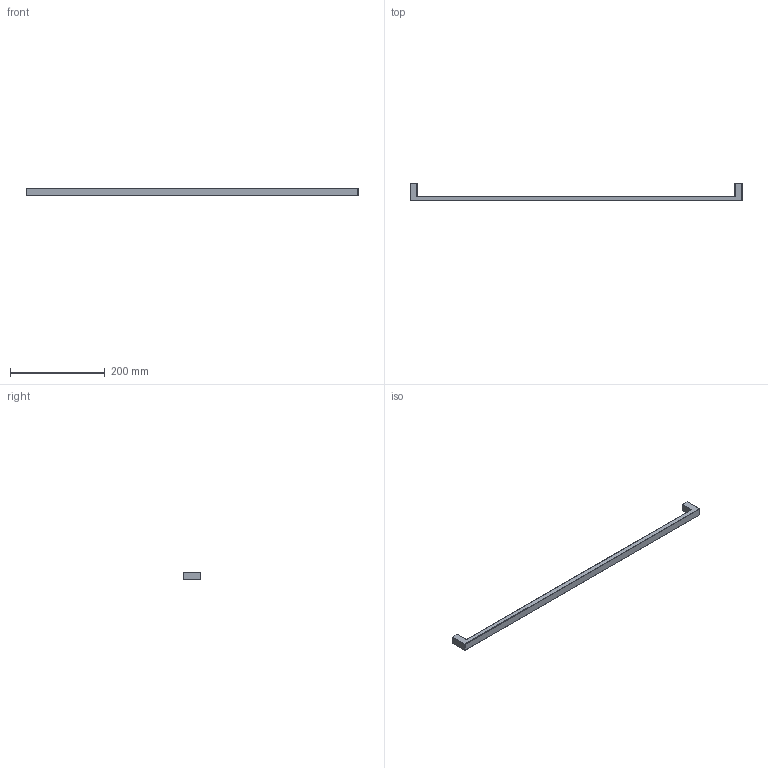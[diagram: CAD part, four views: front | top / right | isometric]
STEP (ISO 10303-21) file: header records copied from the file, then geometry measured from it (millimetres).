
FILE_DESCRIPTION( ( '' ), '1' );
FILE_NAME( 'C:/Documents and Settings/Sachin/Desktop/Sheet 10_1/stp/9113257.stp', '2013-10-22T07:00:33', ( '' ), ( '' ), ' ', ' ', ' ' );
FILE_SCHEMA( ( 'CONFIG_CONTROL_DESIGN' ) );
Length unit declared in the file: millimetre
Products named in the file (1): 1
Bounding box: 699 x 37 x 16 mm (x, y, z)
Volume: 124438.4 mm3; surface area: 39561.6 mm2
Topology: 1 solids, 1 shells, 36 faces, 88 edges, 56 vertices
Faces by surface type: cylinder 20, plane 16
Entity records: 1108 total; most frequent: DIRECTION 198, CARTESIAN_POINT 181, ORIENTED_EDGE 176, EDGE_CURVE 88, AXIS2_PLACEMENT_3D 73, VERTEX_POINT 56, LINE 52, VECTOR 52
